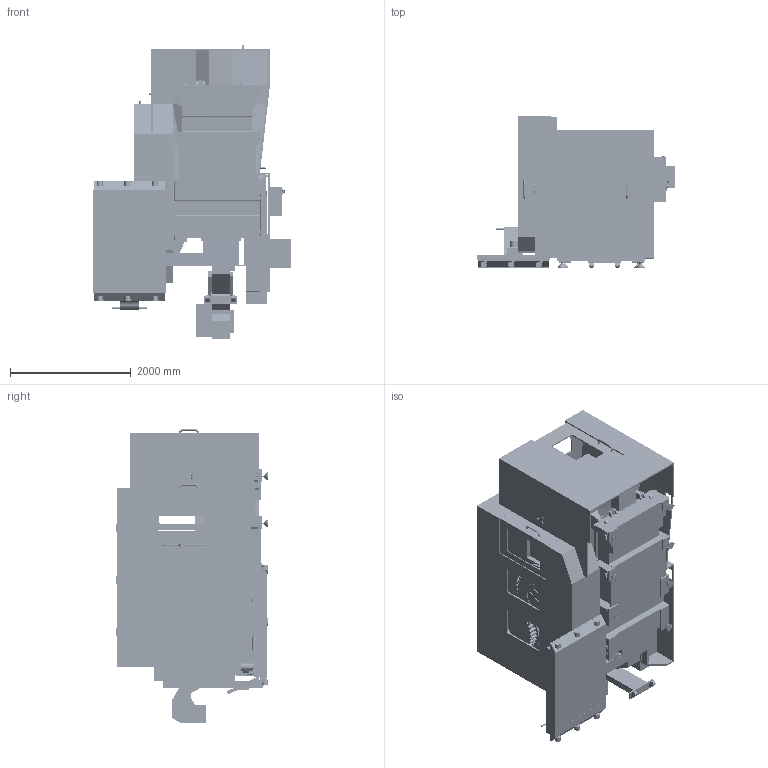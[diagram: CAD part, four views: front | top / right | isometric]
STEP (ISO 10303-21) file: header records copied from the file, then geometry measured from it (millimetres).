
FILE_DESCRIPTION (( 'STEP AP203' ), '1' );
FILE_NAME ('EC-400 w 160PKT_4_2026.STEP', '2026-04-24T16:24:32', ( '' ), ( '' ), 'SwSTEP 2.0', 'SolidWorks 2025', '' );
FILE_SCHEMA (( 'CONFIG_CONTROL_DESIGN' ));
Length unit declared in the file: inch
Products named in the file (23): EC-400-X Axis; EC-400- Inch Pallet 2; EC-400-CDF Conveyor; EC-400-Doors; EC-400-Base Casting; EC-400- Anchor Patterns; EC-400-Pallet H Frame; EC-400-Tool Changer arm Up; EC-400-Tool Changer Arm Down; EC-400-95 Gallon Coolant Tank; EC-400- Y Axis; EC-400 - HSK Spindle; EC-400- Inch Pallet 1; EC-400-Leveling Pads; EC-400- Metric Pallet 2; EC-400-Control Panel; EC-400 - 40T Spindle; EC-400-Chip Conveyor; EC-400- Z Axis_ B Axis; EC-400-Enclosure; EC-400-160 PKt Tool Changer; EC-400 w 160PKT_4_2026; EC-400- Metric Pallet 1
Assembly tree (22 placements, depth 2):
  EC-400 w 160PKT_4_2026
    EC-400- Anchor Patterns
    EC-400-Leveling Pads
    EC-400-Base Casting
    EC-400-Pallet H Frame
    EC-400-X Axis
    EC-400- Y Axis
    EC-400- Z Axis_ B Axis
    EC-400- Inch Pallet 1
    EC-400- Metric Pallet 1
    EC-400- Inch Pallet 2
    EC-400- Metric Pallet 2
    EC-400-160 PKt Tool Changer
    EC-400-Tool Changer arm Up
    EC-400-Enclosure
    EC-400-Tool Changer Arm Down
    EC-400-Doors
    EC-400-Control Panel
    EC-400-Chip Conveyor
    EC-400-CDF Conveyor
    EC-400-95 Gallon Coolant Tank
    EC-400 - 40T Spindle
    EC-400 - HSK Spindle
Bounding box: 3271.4 x 2515.55 x 4875.43 mm (x, y, z)
Volume: 5550507673.2 mm3; surface area: 163521089.3 mm2
Topology: 76 solids, 93 shells, 11028 faces, 28519 edges, 18079 vertices
Faces by surface type: plane 5238, cylinder 3392, cone 1580, bspline 542, torus 202, sphere 74
Entity records: 403939 total; most frequent: CARTESIAN_POINT 135796, ORIENTED_EDGE 56106, DIRECTION 54729, EDGE_CURVE 28053, AXIS2_PLACEMENT_3D 19347, VERTEX_POINT 18078, VECTOR 16035, LINE 16035
